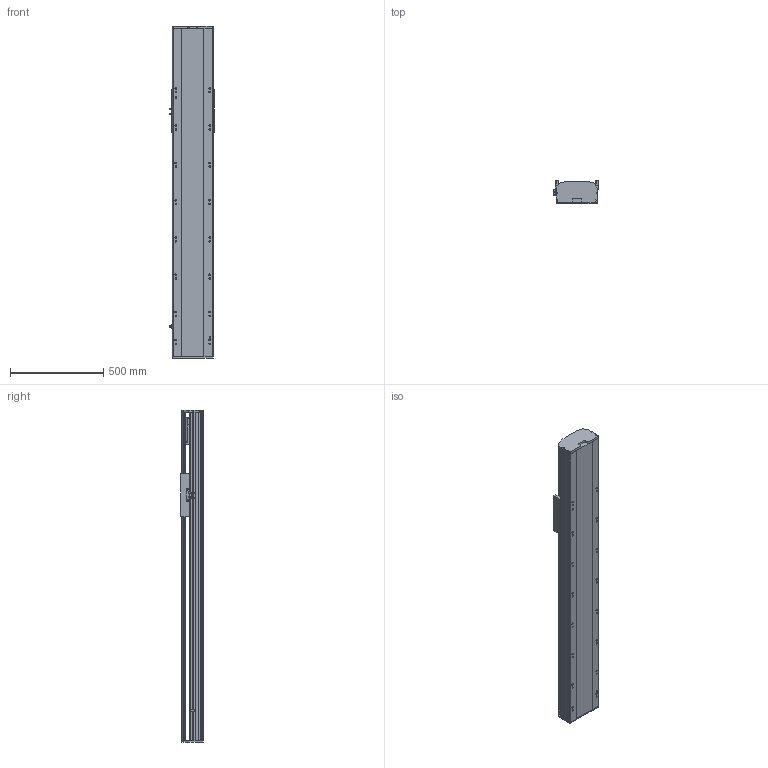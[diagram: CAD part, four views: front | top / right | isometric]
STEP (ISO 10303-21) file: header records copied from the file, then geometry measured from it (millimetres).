
FILE_DESCRIPTION (( 'STEP AP214' ), '1' );
FILE_NAME ('RTH22-XX-1150-B-M75B-C4.STEP', '2025-10-24T10:12:49', ( 'Microsoft' ), ( 'Microsoft' ), 'SwSTEP 2.0', 'SolidWorks 2018', '' );
FILE_SCHEMA (( 'AUTOMOTIVE_DESIGN' ));
Length unit declared in the file: millimetre
Products named in the file (9): N_750W萇儂^RTH22-XX-XX-B-M75B-C4; N_RTH22-B-011B菁釱^RTH22-XX-XX-B-M75B-C4; N_RTH22-GY-001耜裔^RTH22-XX-XX-B-M75B-C4; N_RTH22-GY-013外置感应片^RTH22-XX-XX-B-M75B-C4; RTH22-XX-1150-B-M75B-C4; N_RTH22-B008萇儂啣^RTH22-XX-XX-B-M75B-C4; N_RTH22-B-007B奻裔^RTH22-XX-XX-B-M75B-C4; N_RTH22-E-004-SFS25賑釱^RTH22-XX-XX-B-M75B-C4; N_OMRON EE-SX672 传感器^RTH22-XX-XX-B-M75B-C4
Assembly tree (10 placements, depth 2):
  RTH22-XX-1150-B-M75B-C4
    N_RTH22-B-011B菁釱^RTH22-XX-XX-B-M75B-C4
    N_RTH22-GY-001耜裔^RTH22-XX-XX-B-M75B-C4
    N_750W萇儂^RTH22-XX-XX-B-M75B-C4
    N_RTH22-B008萇儂啣^RTH22-XX-XX-B-M75B-C4
    N_RTH22-B-007B奻裔^RTH22-XX-XX-B-M75B-C4
    N_OMRON EE-SX672 传感器^RTH22-XX-XX-B-M75B-C4  x3
    N_RTH22-GY-013外置感应片^RTH22-XX-XX-B-M75B-C4
    N_RTH22-E-004-SFS25賑釱^RTH22-XX-XX-B-M75B-C4
Bounding box: 238.5 x 122 x 1780 mm (x, y, z)
Volume: 23705862.8 mm3; surface area: 2432282.8 mm2
Topology: 10 solids, 10 shells, 1551 faces, 4250 edges, 2743 vertices
Faces by surface type: plane 756, cylinder 454, bspline 279, cone 62
Entity records: 38749 total; most frequent: CARTESIAN_POINT 11993, ORIENTED_EDGE 5468, DIRECTION 5152, EDGE_CURVE 2734, VERTEX_POINT 1779, AXIS2_PLACEMENT_3D 1742, LINE 1668, VECTOR 1668
